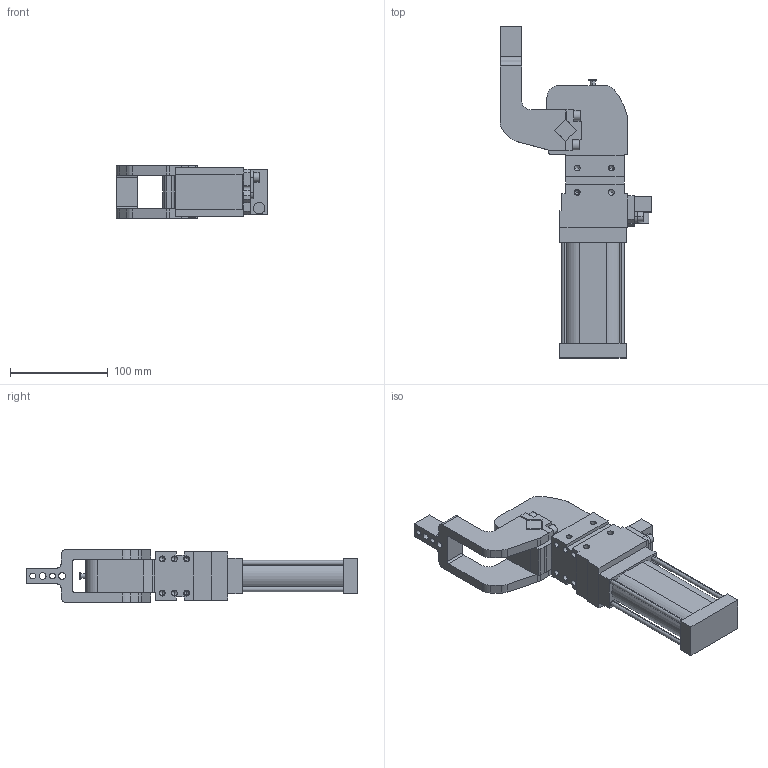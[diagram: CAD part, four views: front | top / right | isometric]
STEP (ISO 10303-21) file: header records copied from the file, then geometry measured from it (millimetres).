
FILE_DESCRIPTION (( 'STEP AP214' ), '1' );
FILE_NAME ('cpl40h3ci1g_135.STEP', '2021-05-25T10:51:26', ( '' ), ( '' ), 'SwSTEP 2.0', 'SolidWorks 2021', '' );
FILE_SCHEMA (( 'AUTOMOTIVE_DESIGN' ));
Length unit declared in the file: millimetre
Products named in the file (5): blocchetto_VEP_0_cpl40; piastra_blocchetto_cpl40; meccanica_cpl40; cpl40h3ci1g_135; leva_v3c_cpl40
Assembly tree (4 placements, depth 2):
  cpl40h3ci1g_135
    meccanica_cpl40
    leva_v3c_cpl40
    blocchetto_VEP_0_cpl40
    piastra_blocchetto_cpl40
Bounding box: 155.5 x 340 x 54 mm (x, y, z)
Volume: 789972.3 mm3; surface area: 122257.8 mm2
Topology: 5 solids, 5 shells, 446 faces, 1142 edges, 717 vertices
Faces by surface type: plane 248, cylinder 150, cone 48
Entity records: 14753 total; most frequent: DIRECTION 2332, CARTESIAN_POINT 2266, ORIENTED_EDGE 2192, EDGE_CURVE 1096, AXIS2_PLACEMENT_3D 783, LINE 766, VECTOR 766, VERTEX_POINT 717
